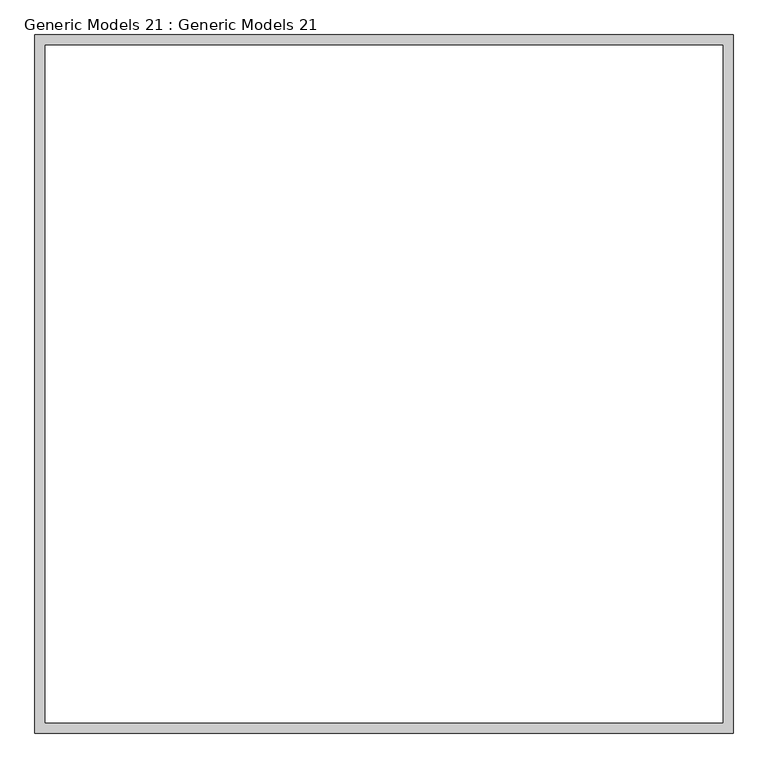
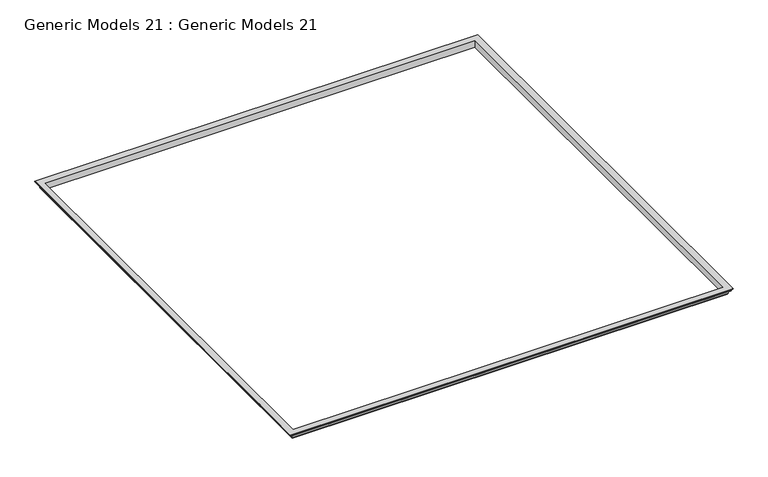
"""IFC4 building model written with IfcOpenShell, lengths in millimetres: proxy geometry, Generic Models 21 : Generic Models 21."""

from ifc_helpers import new_model, si_unit, frame, origin, place, context, project, spatial, polyline, ellipse_curve, source, transform, mapped, element, save
from ifc_brep_helpers import plane_surface, cylinder_surface, revolved_surface, advanced_brep


def generic_models_21_generic_models_21_14a27b0a(model_context):
    return source(origin(), model_context, "Body", "AdvancedBrep", [
        advanced_brep(
        [(-185.4886157, -185.488728, 7460.2615574), (-185.4886157, -185.488728, 7468.2615574), (-185.4886157, 13185.4885097, 7468.2615574), (-185.4886157, 13185.4885097, 7460.2615574), (-174.4886157, -174.488728, 7444.2615574), (-174.4886157, 13174.4885097, 7444.2615574), (-165.4886157, -165.488728, 7433.1779329), (-165.4886157, -165.488728, 7444.2615574), (-165.4886157, 13165.4885097, 7444.2615574), (-165.4886157, 13165.4885097, 7433.1779329), (-144.1250564, -144.1251687, 7395.9337382), (-144.1250564, 13144.1249504, 7395.9337382), (-104.4886157, -104.488728, 7313.2615574), (-104.4886157, 13104.4885097, 7313.2615574), (-95.4886157, -95.488728, 7301.2615574), (-95.4886157, -95.488728, 7313.2615574), (-95.4886157, 13095.4885097, 7313.2615574), (-95.4886157, 13095.4885097, 7301.2615574), (-88.4886157, -88.488728, 7281.2615574), (-88.4886157, -88.488728, 7301.2615574), (-88.4886157, 13088.4885097, 7301.2615574), (-88.4886157, 13088.4885097, 7281.2615574), (-0.0001061, -0.0002183, 7482.2615574), (-0.0001061, -0.0002183, 7281.2615574), (-0.0001061, 13000.0, 7281.2615574), (-0.0001061, 13000.0, 7482.2615574), (-199.4886157, -199.488728, 7482.2615574), (-199.4886157, 13199.4885097, 7482.2615574), (13185.4886219, 13185.4885097, 7468.2615574), (13185.4886219, 13185.4885097, 7460.2615574), (13174.4886219, 13174.4885097, 7444.2615574), (13165.4886219, 13165.4885097, 7444.2615574), (13165.4886219, 13165.4885097, 7433.1779329), (13144.1250626, 13144.1249504, 7395.9337382), (13104.4886219, 13104.4885097, 7313.2615574), (13095.4886219, 13095.4885097, 7313.2615574), (13095.4886219, 13095.4885097, 7301.2615574), (13088.4886219, 13088.4885097, 7301.2615574), (13088.4886219, 13088.4885097, 7281.2615574), (13000.0001123, 13000.0, 7281.2615574), (13000.0001123, 13000.0, 7482.2615574), (13199.4886219, 13199.4885097, 7482.2615574), (13185.4886219, -185.488728, 7468.2615574), (13185.4886219, -185.488728, 7460.2615574), (13174.4886219, -174.488728, 7444.2615574), (13165.4886219, -165.488728, 7444.2615574), (13165.4886219, -165.488728, 7433.1779329), (13144.1250626, -144.1251687, 7395.9337382), (13104.4886219, -104.488728, 7313.2615574), (13095.4886219, -95.488728, 7313.2615574), (13095.4886219, -95.488728, 7301.2615574), (13088.4886219, -88.488728, 7301.2615574), (13088.4886219, -88.488728, 7281.2615574), (13000.0001123, -0.0002183, 7281.2615574), (13000.0001123, -0.0002183, 7482.2615574), (13199.4886219, -199.488728, 7482.2615574)],
        [
            (0, 1),
            (1, 2),
            (2, 3),
            (3, 0),
            (4, 0, ellipse_curve(frame((-189.7399847, -189.740097, 7445.5574912), z_axis=(0.7071067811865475, -0.7071067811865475, 0.0), x_axis=(0.7071067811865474, 0.7071067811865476, 0.0)), 21.6464178, 15.3063288)),
            (3, 5, ellipse_curve(frame((-189.7399847, 13189.7398787, 7445.5574912), z_axis=(0.7071067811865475, 0.7071067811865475, 0.0), x_axis=(-0.7071067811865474, 0.7071067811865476, 0.0)), 21.6464178, 15.3063288)),
            (5, 4),
            (6, 7),
            (7, 8),
            (8, 9),
            (9, 6),
            (10, 6, ellipse_curve(frame((-122.3419733, -122.3420856, 7433.1779329), z_axis=(-0.7071067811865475, 0.7071067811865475, 0.0), x_axis=(-0.7071067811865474, -0.7071067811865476, 0.0)), 61.0185669, 43.1466424)),
            (9, 11, ellipse_curve(frame((-122.3419733, 13122.3418673, 7433.1779329), z_axis=(-0.7071067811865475, -0.7071067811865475, 0.0), x_axis=(0.7071067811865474, -0.7071067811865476, 0.0)), 61.0185669, 43.1466424)),
            (11, 10),
            (12, 10, ellipse_curve(frame((-209.3262659, -209.3263781, 7313.8358395), z_axis=(0.7071067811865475, -0.7071067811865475, 0.0), x_axis=(0.7071067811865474, 0.7071067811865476, 0.0)), 148.2650511, 104.839223)),
            (11, 13, ellipse_curve(frame((-209.3262659, 13209.3261598, 7313.8358395), z_axis=(0.7071067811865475, 0.7071067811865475, 0.0), x_axis=(-0.7071067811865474, 0.7071067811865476, 0.0)), 148.2650511, 104.839223)),
            (13, 12),
            (14, 15),
            (15, 16),
            (16, 17),
            (17, 14),
            (18, 19),
            (19, 20),
            (20, 21),
            (21, 18),
            (22, 23),
            (23, 24),
            (24, 25),
            (25, 22),
            (1, 26, ellipse_curve(frame((-185.4886157, -185.488728, 7482.2615574), z_axis=(-0.7071067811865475, 0.7071067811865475, 0.0), x_axis=(-0.7071067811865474, -0.7071067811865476, 0.0)), 19.7989899, 14.0)),
            (26, 27),
            (27, 2, ellipse_curve(frame((-185.4886157, 13185.4885097, 7482.2615574), z_axis=(-0.7071067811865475, -0.7071067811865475, 0.0), x_axis=(0.7071067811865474, -0.7071067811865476, 0.0)), 19.7989899, 14.0)),
            (2, 28),
            (28, 29),
            (29, 3),
            (29, 30, ellipse_curve(frame((13189.7399909, 13189.7398787, 7445.5574912), z_axis=(0.7071067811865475, -0.7071067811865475, 0.0), x_axis=(0.7071067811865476, 0.7071067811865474, 0.0)), 21.6464178, 15.3063288)),
            (30, 5),
            (8, 31),
            (31, 32),
            (32, 9),
            (32, 33, ellipse_curve(frame((13122.3419795, 13122.3418673, 7433.1779329), z_axis=(-0.7071067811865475, 0.7071067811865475, 0.0), x_axis=(-0.7071067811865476, -0.7071067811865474, 0.0)), 61.0185669, 43.1466424)),
            (33, 11),
            (33, 34, ellipse_curve(frame((13209.326272, 13209.3261598, 7313.8358395), z_axis=(0.7071067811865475, -0.7071067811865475, 0.0), x_axis=(0.7071067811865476, 0.7071067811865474, 0.0)), 148.2650511, 104.839223)),
            (34, 13),
            (16, 35),
            (35, 36),
            (36, 17),
            (20, 37),
            (37, 38),
            (38, 21),
            (24, 39),
            (39, 40),
            (40, 25),
            (27, 41),
            (41, 28, ellipse_curve(frame((13185.4886219, 13185.4885097, 7482.2615574), z_axis=(-0.7071067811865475, 0.7071067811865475, 0.0), x_axis=(-0.7071067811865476, -0.7071067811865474, 0.0)), 19.7989899, 14.0)),
            (28, 42),
            (42, 43),
            (43, 29),
            (43, 44, ellipse_curve(frame((13189.7399909, -189.740097, 7445.5574912), z_axis=(-0.7071067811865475, -0.7071067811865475, 0.0), x_axis=(0.7071067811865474, -0.7071067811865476, 0.0)), 21.6464178, 15.3063288)),
            (44, 30),
            (31, 45),
            (45, 46),
            (46, 32),
            (46, 47, ellipse_curve(frame((13122.3419795, -122.3420856, 7433.1779329), z_axis=(0.7071067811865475, 0.7071067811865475, 0.0), x_axis=(-0.7071067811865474, 0.7071067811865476, 0.0)), 61.0185669, 43.1466424)),
            (47, 33),
            (47, 48, ellipse_curve(frame((13209.326272, -209.3263781, 7313.8358395), z_axis=(-0.7071067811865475, -0.7071067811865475, 0.0), x_axis=(0.7071067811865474, -0.7071067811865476, 0.0)), 148.2650511, 104.839223)),
            (48, 34),
            (35, 49),
            (49, 50),
            (50, 36),
            (37, 51),
            (51, 52),
            (52, 38),
            (39, 53),
            (53, 54),
            (54, 40),
            (41, 55),
            (55, 42, ellipse_curve(frame((13185.4886219, -185.488728, 7482.2615574), z_axis=(0.7071067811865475, 0.7071067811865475, 0.0), x_axis=(-0.7071067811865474, 0.7071067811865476, 0.0)), 19.7989899, 14.0)),
            (42, 1),
            (0, 43),
            (4, 44),
            (7, 45),
            (6, 46),
            (10, 47),
            (12, 48),
            (15, 49),
            (14, 50),
            (19, 51),
            (18, 52),
            (23, 53),
            (22, 54),
            (26, 55),
        ],
        [
            plane_surface(frame((-185.4886157, -185.488728, 7468.2615574), z_axis=(-1.0, 0.0, 0.0), x_axis=(0.0, 1.0, 0.0))),
            revolved_surface(polyline([(-205.0463135, 13205.046207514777, 7445.5574912), (-205.0463135, -205.04642581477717, 7445.5574912)]), (-189.7399847, -199.488728, 7445.5574912), (0.0, 1.0, 0.0)),
            plane_surface(frame((-165.4886157, -165.488728, 7444.2615574), z_axis=(-1.0, 0.0, 0.0), x_axis=(0.0, 1.0, 0.0))),
            cylinder_surface(frame((-122.3419733, -199.488728, 7433.1779329), z_axis=(0.0, -1.0, 0.0), x_axis=(-1.0, 0.0, 0.0)), 43.1466424),
            revolved_surface(polyline([(-314.1654889, 13314.16538284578, 7313.8358395), (-314.1654889, -314.16560114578, 7313.8358395)]), (-209.3262659, -199.488728, 7313.8358395), (0.0, 1.0, 0.0)),
            plane_surface(frame((-95.4886157, -95.488728, 7313.2615574), z_axis=(-1.0, 0.0, 0.0), x_axis=(0.0, 1.0, 0.0))),
            plane_surface(frame((-88.4886157, -88.488728, 7301.2615574), z_axis=(-1.0, 0.0, 0.0), x_axis=(0.0, 1.0, 0.0))),
            plane_surface(frame((-0.0001061, -0.0002183, 7281.2615574), z_axis=(1.0, 0.0, 0.0), x_axis=(0.0, 1.0, 0.0))),
            cylinder_surface(frame((-185.4886157, -199.488728, 7482.2615574), z_axis=(0.0, -1.0, 0.0), x_axis=(-1.0, 0.0, 1.0790680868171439e-12)), 14.0),
            plane_surface(frame((-185.4886157, 13185.4885097, 7468.2615574), z_axis=(0.0, 1.0, 0.0), x_axis=(1.0, 0.0, 0.0))),
            revolved_surface(polyline([(13205.046319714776, 13205.0462075, 7445.5574912), (-205.04631351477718, 13205.0462075, 7445.5574912)]), (-199.4886157, 13189.7398787, 7445.5574912), (1.0, 0.0, 0.0)),
            plane_surface(frame((-165.4886157, 13165.4885097, 7444.2615574), z_axis=(0.0, 1.0, 0.0), x_axis=(1.0, 0.0, 0.0))),
            cylinder_surface(frame((-199.4886157, 13122.3418673, 7433.1779329), z_axis=(-1.0, 0.0, 0.0), x_axis=(0.0, 1.0, 0.0)), 43.1466424),
            revolved_surface(polyline([(13314.16549504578, 13314.165382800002, 7313.8358395), (-314.16548894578, 13314.165382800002, 7313.8358395)]), (-199.4886157, 13209.3261598, 7313.8358395), (1.0, 0.0, 0.0)),
            plane_surface(frame((-95.4886157, 13095.4885097, 7313.2615574), z_axis=(0.0, 1.0, 0.0), x_axis=(1.0, 0.0, 0.0))),
            plane_surface(frame((-88.4886157, 13088.4885097, 7301.2615574), z_axis=(0.0, 1.0, 0.0), x_axis=(1.0, 0.0, 0.0))),
            plane_surface(frame((-0.0001061, 13000.0, 7281.2615574), z_axis=(0.0, -1.0, 0.0), x_axis=(1.0, 0.0, 0.0))),
            cylinder_surface(frame((-199.4886157, 13185.4885097, 7482.2615574), z_axis=(-1.0, 0.0, 0.0), x_axis=(0.0, 1.0, 1.0790680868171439e-12)), 14.0),
            plane_surface(frame((13185.4886219, 13185.4885097, 7468.2615574), z_axis=(1.0, 0.0, 0.0), x_axis=(0.0, -1.0, 0.0))),
            revolved_surface(polyline([(13205.046319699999, -205.04642581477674, 7445.5574912), (13205.046319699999, 13205.046207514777, 7445.5574912)]), (13189.7399909, 13199.4885097, 7445.5574912), (0.0, -1.0, 0.0)),
            plane_surface(frame((13165.4886219, 13165.4885097, 7444.2615574), z_axis=(1.0, 0.0, 0.0), x_axis=(0.0, -1.0, 0.0))),
            cylinder_surface(frame((13122.3419795, 13199.4885097, 7433.1779329), z_axis=(0.0, 1.0, 0.0), x_axis=(1.0, 0.0, 0.0)), 43.1466424),
            revolved_surface(polyline([(13314.165495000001, -314.1656011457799, 7313.8358395), (13314.165495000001, 13314.16538284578, 7313.8358395)]), (13209.326272, 13199.4885097, 7313.8358395), (0.0, -1.0, 0.0)),
            plane_surface(frame((13095.4886219, 13095.4885097, 7313.2615574), z_axis=(1.0, 0.0, 0.0), x_axis=(0.0, -1.0, 0.0))),
            plane_surface(frame((13088.4886219, 13088.4885097, 7301.2615574), z_axis=(1.0, 0.0, 0.0), x_axis=(0.0, -1.0, 0.0))),
            plane_surface(frame((13000.0001123, 13000.0, 7281.2615574), z_axis=(-1.0, 0.0, 0.0), x_axis=(0.0, -1.0, 0.0))),
            cylinder_surface(frame((13185.4886219, 13199.4885097, 7482.2615574), z_axis=(0.0, 1.0, 0.0), x_axis=(1.0, 0.0, 1.0785023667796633e-12)), 14.0),
            plane_surface(frame((13185.4886219, -185.488728, 7468.2615574), z_axis=(0.0, -1.0, 0.0), x_axis=(-1.0, 0.0, 0.0))),
            revolved_surface(polyline([(-205.04631351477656, -205.04642579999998, 7445.5574912), (13205.046319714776, -205.04642579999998, 7445.5574912)]), (13199.4886219, -189.740097, 7445.5574912), (-1.0, 0.0, 0.0)),
            plane_surface(frame((13174.4886219, -174.488728, 7444.2615574), z_axis=(0.0, 0.0, -1.0), x_axis=(-1.0, 0.0, 0.0))),
            plane_surface(frame((13165.4886219, -165.488728, 7444.2615574), z_axis=(0.0, -1.0, 0.0), x_axis=(-1.0, 0.0, 0.0))),
            cylinder_surface(frame((13199.4886219, -122.3420856, 7433.1779329), z_axis=(1.0, 0.0, 0.0), x_axis=(0.0, -1.0, 0.0)), 43.1466424),
            revolved_surface(polyline([(-314.16548894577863, -314.1656011, 7313.8358395), (13314.16549504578, -314.1656011, 7313.8358395)]), (13199.4886219, -209.3263781, 7313.8358395), (-1.0, 0.0, 0.0)),
            plane_surface(frame((13104.4886219, -104.488728, 7313.2615574), z_axis=(0.0, 0.0, -1.0), x_axis=(-1.0, 0.0, 0.0))),
            plane_surface(frame((13095.4886219, -95.488728, 7313.2615574), z_axis=(0.0, -1.0, 0.0), x_axis=(-1.0, 0.0, 0.0))),
            plane_surface(frame((13095.4886219, -95.488728, 7301.2615574), z_axis=(0.0, 0.0, -1.0), x_axis=(-1.0, 0.0, 0.0))),
            plane_surface(frame((13088.4886219, -88.488728, 7301.2615574), z_axis=(0.0, -1.0, 0.0), x_axis=(-1.0, 0.0, 0.0))),
            plane_surface(frame((13088.4886219, -88.488728, 7281.2615574), z_axis=(0.0, 0.0, -1.0), x_axis=(-1.0, 0.0, 0.0))),
            plane_surface(frame((13000.0001123, -0.0002183, 7281.2615574), z_axis=(0.0, 1.0, 0.0), x_axis=(-1.0, 0.0, 0.0))),
            plane_surface(frame((13000.0001123, -0.0002183, 7482.2615574), z_axis=(0.0, 0.0, 1.0), x_axis=(-1.0, 0.0, 0.0))),
            cylinder_surface(frame((13199.4886219, -185.488728, 7482.2615574), z_axis=(1.0, 0.0, 0.0), x_axis=(0.0, -1.0, 1.0785023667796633e-12)), 14.0),
        ],
        [
            (0, [[1, 2, 3, 4]]),
            (1, [[5, -4, 6, 7]]),
            (2, [[8, 9, 10, 11]]),
            (3, [[12, -11, 13, 14]]),
            (4, [[15, -14, 16, 17]]),
            (5, [[18, 19, 20, 21]]),
            (6, [[22, 23, 24, 25]]),
            (7, [[26, 27, 28, 29]]),
            (8, [[30, 31, 32, -2]]),
            (9, [[-3, 33, 34, 35]]),
            (10, [[-6, -35, 36, 37]]),
            (11, [[-10, 38, 39, 40]]),
            (12, [[-13, -40, 41, 42]]),
            (13, [[-16, -42, 43, 44]]),
            (14, [[-20, 45, 46, 47]]),
            (15, [[-24, 48, 49, 50]]),
            (16, [[-28, 51, 52, 53]]),
            (17, [[-32, 54, 55, -33]]),
            (18, [[-34, 56, 57, 58]]),
            (19, [[-36, -58, 59, 60]]),
            (20, [[-39, 61, 62, 63]]),
            (21, [[-41, -63, 64, 65]]),
            (22, [[-43, -65, 66, 67]]),
            (23, [[-46, 68, 69, 70]]),
            (24, [[-49, 71, 72, 73]]),
            (25, [[-52, 74, 75, 76]]),
            (26, [[-55, 77, 78, -56]]),
            (27, [[-57, 79, -1, 80]]),
            (28, [[-59, -80, -5, 81]]),
            (29, [[-37, -60, -81, -7], [82, -61, -38, -9]]),
            (30, [[-62, -82, -8, 83]]),
            (31, [[-64, -83, -12, 84]]),
            (32, [[-66, -84, -15, 85]]),
            (33, [[-44, -67, -85, -17], [86, -68, -45, -19]]),
            (34, [[-69, -86, -18, 87]]),
            (35, [[-47, -70, -87, -21], [88, -71, -48, -23]]),
            (36, [[-72, -88, -22, 89]]),
            (37, [[-50, -73, -89, -25], [90, -74, -51, -27]]),
            (38, [[-75, -90, -26, 91]]),
            (39, [[92, -77, -54, -31], [-53, -76, -91, -29]]),
            (40, [[-78, -92, -30, -79]]),
        ],
    ),
    ])


if __name__ == "__main__":
    model = new_model("IFC4")
    model_context = context("Model", 3, world=origin())
    ifc_project = project(units=[si_unit("LENGTHUNIT", "METRE", prefix="MILLI")], contexts=[model_context])
    site = spatial("IfcSite", under=ifc_project)
    building = spatial("IfcBuilding", under=site)
    placement = place(None, origin())
    generic_models_21_generic_models_21_shape = generic_models_21_generic_models_21_14a27b0a(model_context)
    element("IfcBuildingElementProxy", 1, Name="Generic Models 21 : Generic Models 21", ObjectType="Generic Models 21 : Generic Models 21", at=placement, inside=building, context=model_context, shape_type="MappedRepresentation", body=[
        mapped(generic_models_21_generic_models_21_shape, transform((0.0, 0.0, 0.0), x_axis=(1.0, 0.0, 0.0), y_axis=(0.0, 1.0, 0.0), z_axis=(0.0, 0.0, 1.0))),
    ])
    save(model, "model.ifc")
